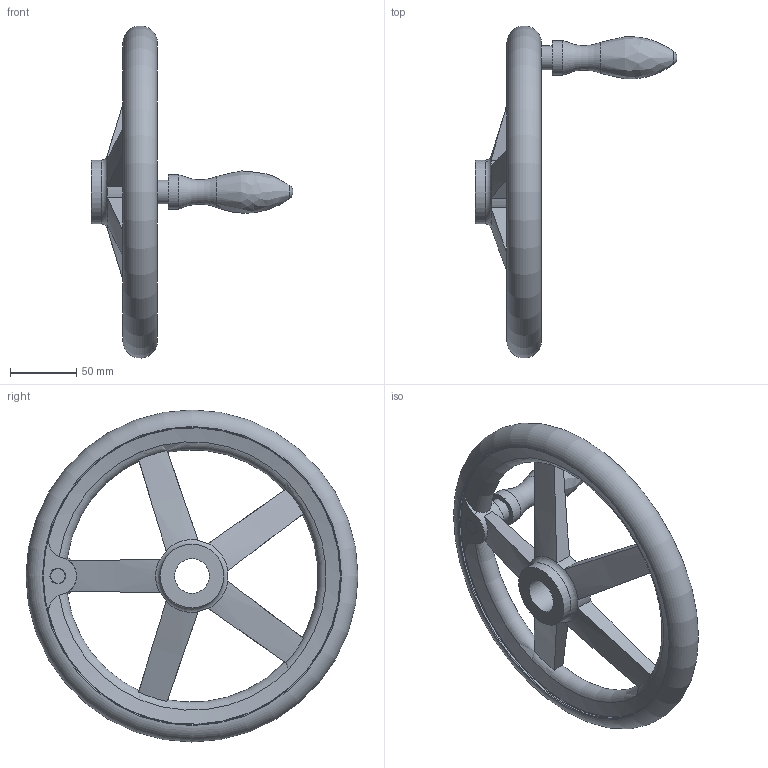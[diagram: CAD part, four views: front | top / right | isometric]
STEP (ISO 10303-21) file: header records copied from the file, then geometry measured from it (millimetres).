
FILE_DESCRIPTION( ( 'STEP AP203' ), '1' );
FILE_NAME( 'C:/Temp/Ganter_Step_05_03_2020/data/1_3/din_950/din_950_b/din_950_b_d/Handwheel DIN 950-GG-250-B26-D.stp', '2020-03-05T10:29:50', ( 'License CC BY-ND 4.0' ), ( 'CADENAS' ), ' ', 'PARTsolutions', ' ' );
FILE_SCHEMA( ( 'CONFIG_CONTROL_DESIGN' ) );
Length unit declared in the file: millimetre
Products named in the file (1): _Handwheel DIN 950-GG-250-B26-D
Bounding box: 152 x 249.92 x 249.92 mm (x, y, z)
Volume: 561345.1 mm3; surface area: 102930.2 mm2
Topology: 1 solids, 1 shells, 58 faces, 165 edges, 106 vertices
Faces by surface type: cylinder 17, plane 16, torus 13, cone 10, bspline 1, sphere 1
Full cylindrical faces by diameter (mm): 18 x1, 26 x2, 48 x2, 224 x2
Entity records: 2315 total; most frequent: CARTESIAN_POINT 927, ORIENTED_EDGE 278, DIRECTION 254, EDGE_CURVE 139, AXIS2_PLACEMENT_3D 119, VERTEX_POINT 102, EDGE_LOOP 87, FACE_OUTER_BOUND 74
